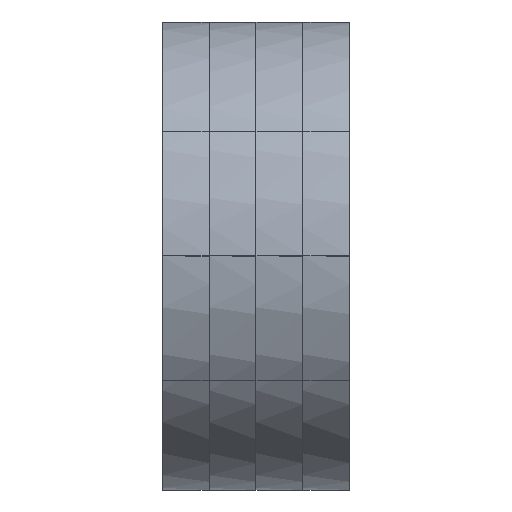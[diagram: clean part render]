
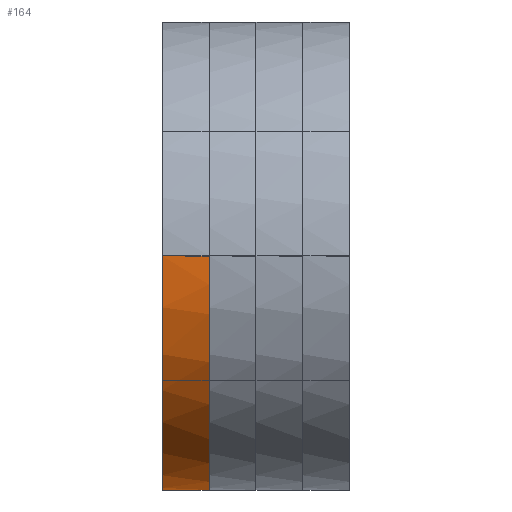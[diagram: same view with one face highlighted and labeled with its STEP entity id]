
A CAD part, left-side view. The second image highlights one B-rep face of the part: STEP entity #164.
In plain terms, the highlighted free-form (B-spline) face has degree [1, 2] with [2, 9] control points.
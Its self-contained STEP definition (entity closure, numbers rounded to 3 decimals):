
#164=ADVANCED_FACE('',(#170),#344,.T.);
#170=FACE_OUTER_BOUND('',#176,.T.);
#176=EDGE_LOOP('',(#187,#188,#189,#190));
#187=ORIENTED_EDGE('',*,*,#283,.T.);
#188=ORIENTED_EDGE('',*,*,#284,.T.);
#189=ORIENTED_EDGE('',*,*,#285,.T.);
#190=ORIENTED_EDGE('',*,*,#286,.T.);
#205=(
BOUNDED_CURVE()
B_SPLINE_CURVE(2,(#550,#551,#552,#553,#554),.UNSPECIFIED.,.F.,.F.)
B_SPLINE_CURVE_WITH_KNOTS((3,2,3),(1.,2.571,4.142),
 .UNSPECIFIED.)
CURVE()
GEOMETRIC_REPRESENTATION_ITEM()
RATIONAL_B_SPLINE_CURVE((1.,0.707,1.,0.707,1.))
REPRESENTATION_ITEM('')
);
#206=(
BOUNDED_CURVE()
B_SPLINE_CURVE(2,(#561,#562,#563,#564,#565),.UNSPECIFIED.,.F.,.F.)
B_SPLINE_CURVE_WITH_KNOTS((3,2,3),(5.142,6.712,8.283),
 .UNSPECIFIED.)
CURVE()
GEOMETRIC_REPRESENTATION_ITEM()
RATIONAL_B_SPLINE_CURVE((1.,0.707,1.,0.707,1.))
REPRESENTATION_ITEM('')
);
#223=PCURVE('',#344,#243);
#224=PCURVE('',#344,#244);
#225=PCURVE('',#344,#245);
#226=PCURVE('',#344,#246);
#243=DEFINITIONAL_REPRESENTATION('',(#306),#755);
#244=DEFINITIONAL_REPRESENTATION('',(#307),#755);
#245=DEFINITIONAL_REPRESENTATION('',(#309),#755);
#246=DEFINITIONAL_REPRESENTATION('',(#310),#755);
#263=SURFACE_CURVE('',#305,(#223),.PCURVE_S1.);
#264=SURFACE_CURVE('',#205,(#224),.PCURVE_S1.);
#265=SURFACE_CURVE('',#308,(#225),.PCURVE_S1.);
#266=SURFACE_CURVE('',#206,(#226),.PCURVE_S1.);
#283=EDGE_CURVE('',#327,#328,#263,.T.);
#284=EDGE_CURVE('',#328,#329,#264,.T.);
#285=EDGE_CURVE('',#329,#330,#265,.T.);
#286=EDGE_CURVE('',#330,#327,#266,.T.);
#305=B_SPLINE_CURVE_WITH_KNOTS('',1,(#546,#547),.UNSPECIFIED.,.F.,.F.,(2,
2),(0.,1.),.UNSPECIFIED.);
#306=B_SPLINE_CURVE_WITH_KNOTS('',1,(#548,#549),.UNSPECIFIED.,.F.,.F.,(2,
2),(0.,1.),.UNSPECIFIED.);
#307=B_SPLINE_CURVE_WITH_KNOTS('',1,(#555,#556),.UNSPECIFIED.,.F.,.F.,(2,
2),(1.,4.142),.UNSPECIFIED.);
#308=B_SPLINE_CURVE_WITH_KNOTS('',1,(#557,#558),.UNSPECIFIED.,.F.,.F.,(2,
2),(4.142,5.142),.UNSPECIFIED.);
#309=B_SPLINE_CURVE_WITH_KNOTS('',1,(#559,#560),.UNSPECIFIED.,.F.,.F.,(2,
2),(4.142,5.142),.UNSPECIFIED.);
#310=B_SPLINE_CURVE_WITH_KNOTS('',1,(#566,#567),.UNSPECIFIED.,.F.,.F.,(2,
2),(5.142,8.283),.UNSPECIFIED.);
#327=VERTEX_POINT('',#542);
#328=VERTEX_POINT('',#543);
#329=VERTEX_POINT('',#544);
#330=VERTEX_POINT('',#545);
#344=(
BOUNDED_SURFACE()
B_SPLINE_SURFACE(1,2,((#524,#525,#526,#527,#528,#529,#530,#531,#532),(#533,
#534,#535,#536,#537,#538,#539,#540,#541)),.UNSPECIFIED.,.F.,.F.,.F.)
B_SPLINE_SURFACE_WITH_KNOTS((2,2),(3,2,2,2,3),(0.,1.),(0.,1.571,
3.142,4.712,6.283),.UNSPECIFIED.)
GEOMETRIC_REPRESENTATION_ITEM()
RATIONAL_B_SPLINE_SURFACE(((1.,0.707,1.,0.707,1.,
0.707,1.,0.707,1.),(1.,0.707,1.,0.707,
1.,0.707,1.,0.707,1.)))
REPRESENTATION_ITEM('')
SURFACE()
);
#524=CARTESIAN_POINT('',(-1.,5.,0.));
#525=CARTESIAN_POINT('',(-1.,5.,-5.));
#526=CARTESIAN_POINT('',(-1.,0.,-5.));
#527=CARTESIAN_POINT('',(-1.,-5.,-5.));
#528=CARTESIAN_POINT('',(-1.,-5.,0.));
#529=CARTESIAN_POINT('',(-1.,-5.,5.));
#530=CARTESIAN_POINT('',(-1.,0.,5.));
#531=CARTESIAN_POINT('',(-1.,5.,5.));
#532=CARTESIAN_POINT('',(-1.,5.,0.));
#533=CARTESIAN_POINT('',(0.,5.,0.));
#534=CARTESIAN_POINT('',(0.,5.,-5.));
#535=CARTESIAN_POINT('',(0.,0.,-5.));
#536=CARTESIAN_POINT('',(0.,-5.,-5.));
#537=CARTESIAN_POINT('',(0.,-5.,0.));
#538=CARTESIAN_POINT('',(0.,-5.,5.));
#539=CARTESIAN_POINT('',(0.,0.,5.));
#540=CARTESIAN_POINT('',(0.,5.,5.));
#541=CARTESIAN_POINT('',(0.,5.,0.));
#542=CARTESIAN_POINT('',(-1.,5.,0.));
#543=CARTESIAN_POINT('',(0.,5.,0.));
#544=CARTESIAN_POINT('',(0.,-5.,0.));
#545=CARTESIAN_POINT('',(-1.,-5.,0.));
#546=CARTESIAN_POINT('',(-1.,5.,0.));
#547=CARTESIAN_POINT('',(0.,5.,0.));
#548=CARTESIAN_POINT('',(0.,0.));
#549=CARTESIAN_POINT('',(1.,0.));
#550=CARTESIAN_POINT('',(0.,5.,0.));
#551=CARTESIAN_POINT('',(0.,5.,-5.));
#552=CARTESIAN_POINT('',(0.,0.,-5.));
#553=CARTESIAN_POINT('',(0.,-5.,-5.));
#554=CARTESIAN_POINT('',(0.,-5.,0.));
#555=CARTESIAN_POINT('',(1.,0.));
#556=CARTESIAN_POINT('',(1.,3.142));
#557=CARTESIAN_POINT('',(0.,-5.,0.));
#558=CARTESIAN_POINT('',(-1.,-5.,0.));
#559=CARTESIAN_POINT('',(1.,3.142));
#560=CARTESIAN_POINT('',(0.,3.142));
#561=CARTESIAN_POINT('',(-1.,-5.,0.));
#562=CARTESIAN_POINT('',(-1.,-5.,-5.));
#563=CARTESIAN_POINT('',(-1.,0.,-5.));
#564=CARTESIAN_POINT('',(-1.,5.,-5.));
#565=CARTESIAN_POINT('',(-1.,5.,0.));
#566=CARTESIAN_POINT('',(0.,3.142));
#567=CARTESIAN_POINT('',(0.,0.));
#755=(
GEOMETRIC_REPRESENTATION_CONTEXT(2)
PARAMETRIC_REPRESENTATION_CONTEXT()
REPRESENTATION_CONTEXT('pspace','')
);
